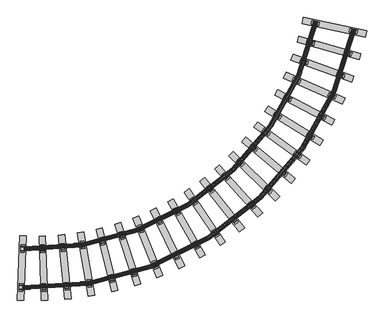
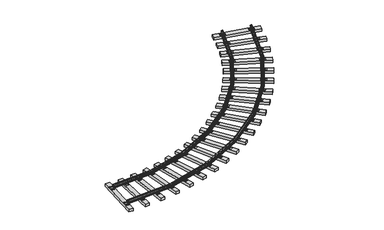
"""IFC4 building model written with IfcOpenShell, lengths in millimetres: railing geometry, Koleje."""

from ifc_helpers import new_model, si_unit, point, frame, origin, place, context, project, spatial, polyline, circle_curve, ellipse_curve, trimmed, outline, extrude, source, transform, mapped, element, save
from ifc_brep_helpers import plane_surface, cylinder_surface, revolved_surface, advanced_brep


def railing_4d6f0e60(model_context):
    return source(origin(), model_context, "Body", "SolidModel", [
        advanced_brep(
        [(56686.8886214, 35457.4425198, 147.0), (43873.8712563, 25446.8162203, 147.0), (43874.8808343, 25473.7973387, 161.9663444), (56660.4647185, 35462.9902539, 161.9663444), (56686.8886214, 35457.4425198, 65.0), (43873.8712563, 25446.8162203, 65.0), (56672.5486963, 35460.4532064, 45.3516536), (43874.4191418, 25461.4585394, 45.3516536), (56655.3324678, 35464.0677769, 39.9733683), (43875.0769222, 25479.037816, 39.9733683), (56632.9311281, 35468.7709684, 37.0), (43875.9328101, 25501.9115452, 37.0), (56623.2755218, 35470.798176, 37.0), (43876.3017219, 25511.7707646, 37.0), (56623.2755218, 35470.798176, 15.0), (43876.3017219, 25511.7707646, 15.0), (56770.0749825, 35439.9774309, 15.0), (43870.6929553, 25361.8756622, 15.0), (56770.0749825, 35439.9774309, 37.0), (43870.6929553, 25361.8756622, 37.0), (56760.4193762, 35442.0046385, 37.0), (43871.061867, 25371.7348816, 37.0), (56738.0180365, 35446.70783, 40.3498453), (43871.9177549, 25394.6086108, 40.3498453), (56720.801808, 35450.3224005, 45.7281306), (43872.5755353, 25412.1878875, 45.7281306), (56706.4618829, 35453.3330871, 65.0), (43873.1234208, 25426.8302066, 65.0), (56706.4618829, 35453.3330871, 147.0), (43873.1234208, 25426.8302066, 147.0), (56732.8857858, 35447.785353, 161.9663444), (43872.1138428, 25399.8490882, 161.9663444), (56732.8857858, 35447.785353, 176.5), (43872.1138428, 25399.8490882, 176.5), (56714.780519, 35451.5865782, 195.0), (43872.8055907, 25418.3361508, 195.0), (56678.5699853, 35459.1890287, 195.0), (43874.1890864, 25455.3102761, 195.0), (56660.4647185, 35462.9902539, 176.5), (43874.8808343, 25473.7973387, 176.5)],
        [
            (0, 1, circle_curve(frame((44345.402386, 38048.5542261, 147.0), z_axis=(0.0, 0.0, -1.0), x_axis=(-0.03739177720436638, -0.9993006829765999, 0.0)), 12610.5567829)),
            (1, 2),
            (2, 3, circle_curve(frame((44345.402386, 38048.5542261, 161.9663444), z_axis=(0.0, 0.0, 1.0), x_axis=(-0.03739177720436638, -0.9993006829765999, 0.0)), 12583.5567829)),
            (3, 0),
            (4, 5, circle_curve(frame((44345.402386, 38048.5542261, 65.0), z_axis=(0.0, 0.0, -1.0), x_axis=(-0.03739177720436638, -0.9993006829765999, 0.0)), 12610.5567829)),
            (5, 1),
            (0, 4),
            (6, 7, circle_curve(frame((44345.402386, 38048.5542261, 45.3516536), z_axis=(0.0, 0.0, -1.0), x_axis=(-0.03739177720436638, -0.9993006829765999, 0.0)), 12595.904217)),
            (7, 5, circle_curve(frame((43874.6377878, 25467.3018843, 65.0), z_axis=(-0.9993006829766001, 0.03739177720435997, 0.0), x_axis=(-0.03739177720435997, -0.9993006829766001, 0.0)), 20.5)),
            (4, 6, circle_curve(frame((56666.8260285, 35461.6546883, 65.0), z_axis=(0.20547163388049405, 0.9786630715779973, 0.0), x_axis=(0.9786630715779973, -0.20547163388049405, 0.0)), 20.5)),
            (8, 9, circle_curve(frame((44345.402386, 38048.5542261, 39.9733683), z_axis=(0.0, 0.0, -1.0), x_axis=(-0.03739177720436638, -0.9993006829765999, 0.0)), 12578.3126382)),
            (9, 7),
            (6, 8),
            (10, 11, circle_curve(frame((44345.402386, 38048.5542261, 37.0), z_axis=(0.0, 0.0, -1.0), x_axis=(-0.03739177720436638, -0.9993006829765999, 0.0)), 12555.4229019)),
            (11, 9, circle_curve(frame((43875.9328101, 25501.9115452, 126.5921559), z_axis=(-0.9993006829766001, 0.03739177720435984, 0.0), x_axis=(-0.03739177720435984, -0.9993006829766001, 0.0)), 89.5921559)),
            (8, 10, circle_curve(frame((56632.9311281, 35468.7709684, 126.5921559), z_axis=(0.20547163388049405, 0.9786630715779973, 0.0), x_axis=(0.9786630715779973, -0.20547163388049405, 0.0)), 89.5921559)),
            (12, 13, circle_curve(frame((44345.402386, 38048.5542261, 37.0), z_axis=(0.0, 0.0, -1.0), x_axis=(-0.03739177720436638, -0.9993006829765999, 0.0)), 12545.5567829)),
            (13, 11),
            (10, 12),
            (14, 15, circle_curve(frame((44345.402386, 38048.5542261, 15.0), z_axis=(0.0, 0.0, -1.0), x_axis=(-0.03739177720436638, -0.9993006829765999, 0.0)), 12545.5567829)),
            (15, 13),
            (12, 14),
            (16, 17, circle_curve(frame((44345.402386, 38048.5542261, 15.0), z_axis=(0.0, 0.0, -1.0), x_axis=(-0.03739177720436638, -0.9993006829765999, 0.0)), 12695.5567829)),
            (17, 15),
            (14, 16),
            (18, 19, circle_curve(frame((44345.402386, 38048.5542261, 37.0), z_axis=(0.0, 0.0, -1.0), x_axis=(-0.03739177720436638, -0.9993006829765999, 0.0)), 12695.5567829)),
            (19, 17),
            (16, 18),
            (20, 21, circle_curve(frame((44345.402386, 38048.5542261, 37.0), z_axis=(0.0, 0.0, -1.0), x_axis=(-0.03739177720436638, -0.9993006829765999, 0.0)), 12685.6906639)),
            (21, 19),
            (18, 20),
            (22, 23, circle_curve(frame((44345.402386, 38048.5542261, 40.3498453), z_axis=(0.0, 0.0, -1.0), x_axis=(-0.03739177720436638, -0.9993006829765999, 0.0)), 12662.8009275)),
            (23, 21, circle_curve(frame((43871.061867, 25371.7348816, 116.8785391), z_axis=(-0.9993006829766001, 0.037391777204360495, 0.0), x_axis=(-0.037391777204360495, -0.9993006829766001, 0.0)), 79.8785391)),
            (20, 22, circle_curve(frame((56760.4193762, 35442.0046385, 116.8785391), z_axis=(0.20547163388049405, 0.9786630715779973, 0.0), x_axis=(0.9786630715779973, -0.20547163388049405, 0.0)), 79.8785391)),
            (24, 25, circle_curve(frame((44345.402386, 38048.5542261, 45.7281306), z_axis=(0.0, 0.0, -1.0), x_axis=(-0.03739177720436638, -0.9993006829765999, 0.0)), 12645.2093488)),
            (25, 23),
            (22, 24),
            (26, 27, circle_curve(frame((44345.402386, 38048.5542261, 65.0), z_axis=(0.0, 0.0, -1.0), x_axis=(-0.03739177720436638, -0.9993006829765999, 0.0)), 12630.5567829)),
            (27, 25, circle_curve(frame((43872.3755853, 25406.8441929, 65.0), z_axis=(-0.9993006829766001, 0.03739177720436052, 0.0), x_axis=(-0.03739177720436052, -0.9993006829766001, 0.0)), 20.0)),
            (24, 26, circle_curve(frame((56726.0351443, 35449.2236544, 65.0), z_axis=(0.20547163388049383, 0.9786630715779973, 0.0), x_axis=(0.9786630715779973, -0.20547163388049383, 0.0)), 20.0)),
            (28, 29, circle_curve(frame((44345.402386, 38048.5542261, 147.0), z_axis=(0.0, 0.0, -1.0), x_axis=(-0.03739177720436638, -0.9993006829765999, 0.0)), 12630.5567829)),
            (29, 27),
            (26, 28),
            (30, 31, circle_curve(frame((44345.402386, 38048.5542261, 161.9663444), z_axis=(0.0, 0.0, -1.0), x_axis=(-0.03739177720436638, -0.9993006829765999, 0.0)), 12657.5567829)),
            (31, 29),
            (28, 30),
            (32, 33, circle_curve(frame((44345.402386, 38048.5542261, 176.5), z_axis=(0.0, 0.0, -1.0), x_axis=(-0.03739177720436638, -0.9993006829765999, 0.0)), 12657.5567829)),
            (33, 31),
            (30, 32),
            (34, 35, circle_curve(frame((44345.402386, 38048.5542261, 195.0), z_axis=(0.0, 0.0, -1.0), x_axis=(-0.03739177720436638, -0.9993006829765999, 0.0)), 12639.0567829)),
            (35, 33, circle_curve(frame((43872.8055907, 25418.3361508, 176.5), z_axis=(0.9993006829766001, -0.03739177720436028, 0.0), x_axis=(-0.03739177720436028, -0.9993006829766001, 0.0)), 18.5)),
            (32, 34, circle_curve(frame((56714.780519, 35451.5865782, 176.5), z_axis=(-0.20547163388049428, -0.9786630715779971, 0.0), x_axis=(0.9786630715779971, -0.20547163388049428, 0.0)), 18.5)),
            (36, 37, circle_curve(frame((44345.402386, 38048.5542261, 195.0), z_axis=(0.0, 0.0, -1.0), x_axis=(-0.03739177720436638, -0.9993006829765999, 0.0)), 12602.0567829)),
            (37, 35),
            (34, 36),
            (38, 39, circle_curve(frame((44345.402386, 38048.5542261, 176.5), z_axis=(0.0, 0.0, -1.0), x_axis=(-0.03739177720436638, -0.9993006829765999, 0.0)), 12583.5567829)),
            (39, 37, circle_curve(frame((43874.1890864, 25455.3102761, 176.5), z_axis=(0.9993006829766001, -0.03739177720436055, 0.0), x_axis=(-0.03739177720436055, -0.9993006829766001, 0.0)), 18.5)),
            (36, 38, circle_curve(frame((56678.5699853, 35459.1890287, 176.5), z_axis=(-0.20547163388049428, -0.9786630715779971, 0.0), x_axis=(0.9786630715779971, -0.20547163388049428, 0.0)), 18.5)),
            (2, 39),
            (38, 3),
        ],
        [
            revolved_surface(polyline([(43874.8808343, 25473.7973387, 161.9663444), (43873.8712563, 25446.8162203, 147.0)]), (44345.402386, 38048.5542261, 15.0), (0.0, 0.0, 1.0)),
            revolved_surface(polyline([(43873.871256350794, 25446.81622023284, 147.0), (43873.871256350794, 25446.81622023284, 65.0)]), (44345.402386, 38048.5542261, 15.0), (0.0, 0.0, 1.0)),
            revolved_surface(trimmed(ellipse_curve(frame((43874.6377878, 25467.3018843, 65.0), z_axis=(0.9993006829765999, -0.03739177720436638, 0.0), x_axis=(-0.03739177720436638, -0.9993006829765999, 0.0)), 20.5, 20.5), [point((43873.8712563, 25446.8162203, 65.0))], [point((43874.4191418, 25461.4585394, 45.3516536))], True, "CARTESIAN"), (44345.402386, 38048.5542261, 15.0), (0.0, 0.0, 1.0)),
            revolved_surface(polyline([(43874.4191418, 25461.4585394, 45.3516536), (43875.0769222, 25479.037816, 39.9733683)]), (44345.402386, 38048.5542261, 15.0), (0.0, 0.0, 1.0)),
            revolved_surface(trimmed(ellipse_curve(frame((43875.9328101, 25501.9115452, 126.5921559), z_axis=(0.9993006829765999, -0.03739177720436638, 0.0), x_axis=(-0.03739177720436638, -0.9993006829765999, 0.0)), 89.5921559, 89.5921559), [point((43875.0769222, 25479.037816, 39.9733683))], [point((43875.9328101, 25501.9115452, 37.0))], True, "CARTESIAN"), (44345.402386, 38048.5542261, 15.0), (0.0, 0.0, 1.0)),
            plane_surface(frame((44345.402386, 38048.5542261, 37.0), z_axis=(0.0, 0.0, 1.0), x_axis=(-0.03739177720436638, -0.9993006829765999, 0.0))),
            revolved_surface(polyline([(43876.30172186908, 25511.770764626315, 37.0), (43876.30172186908, 25511.770764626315, 15.0)]), (44345.402386, 38048.5542261, 15.0), (0.0, 0.0, 1.0)),
            plane_surface(frame((44345.402386, 38048.5542261, 15.0), z_axis=(0.0, 0.0, -1.0), x_axis=(-0.03739177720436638, -0.9993006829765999, 0.0))),
            cylinder_surface(frame((44345.402386, 38048.5542261, 15.0), z_axis=(0.0, 0.0, 1.0), x_axis=(-0.03739177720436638, -0.9993006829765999, 0.0)), 12695.5567829),
            revolved_surface(trimmed(ellipse_curve(frame((43871.061867, 25371.7348816, 116.8785391), z_axis=(0.9993006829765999, -0.03739177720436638, 0.0), x_axis=(-0.03739177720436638, -0.9993006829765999, 0.0)), 79.8785391, 79.8785391), [point((43871.061867, 25371.7348816, 37.0))], [point((43871.9177549, 25394.6086108, 40.3498453))], True, "CARTESIAN"), (44345.402386, 38048.5542261, 15.0), (0.0, 0.0, 1.0)),
            revolved_surface(polyline([(43871.9177549, 25394.6086108, 40.3498453), (43872.5755353, 25412.1878875, 45.7281306)]), (44345.402386, 38048.5542261, 15.0), (0.0, 0.0, 1.0)),
            revolved_surface(trimmed(ellipse_curve(frame((43872.3755853, 25406.8441929, 65.0), z_axis=(0.9993006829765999, -0.03739177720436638, 0.0), x_axis=(-0.03739177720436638, -0.9993006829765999, 0.0)), 20.0, 20.0), [point((43872.5755353, 25412.1878875, 45.7281306))], [point((43873.1234208, 25426.8302066, 65.0))], True, "CARTESIAN"), (44345.402386, 38048.5542261, 15.0), (0.0, 0.0, 1.0)),
            cylinder_surface(frame((44345.402386, 38048.5542261, 15.0), z_axis=(0.0, 0.0, 1.0), x_axis=(-0.03739177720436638, -0.9993006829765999, 0.0)), 12630.5567829),
            revolved_surface(polyline([(43873.1234208, 25426.8302066, 147.0), (43872.1138428, 25399.8490882, 161.9663444)]), (44345.402386, 38048.5542261, 15.0), (0.0, 0.0, 1.0)),
            cylinder_surface(frame((44345.402386, 38048.5542261, 15.0), z_axis=(0.0, 0.0, 1.0), x_axis=(-0.03739177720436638, -0.9993006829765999, 0.0)), 12657.5567829),
            revolved_surface(trimmed(ellipse_curve(frame((43872.8055907, 25418.3361508, 176.5), z_axis=(-0.9993006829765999, 0.03739177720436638, 0.0), x_axis=(-0.03739177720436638, -0.9993006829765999, 0.0)), 18.5, 18.5), [point((43872.1138428, 25399.8490882, 176.5))], [point((43872.8055907, 25418.3361508, 195.0))], True, "CARTESIAN"), (44345.402386, 38048.5542261, 15.0), (0.0, 0.0, 1.0)),
            plane_surface(frame((44345.402386, 38048.5542261, 195.0), z_axis=(0.0, 0.0, 1.0), x_axis=(-0.03739177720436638, -0.9993006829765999, 0.0))),
            revolved_surface(trimmed(ellipse_curve(frame((43874.1890864, 25455.3102761, 176.5), z_axis=(-0.9993006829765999, 0.03739177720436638, 0.0), x_axis=(-0.03739177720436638, -0.9993006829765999, 0.0)), 18.5, 18.5), [point((43874.1890864, 25455.3102761, 195.0))], [point((43874.8808343, 25473.7973387, 176.5))], True, "CARTESIAN"), (44345.402386, 38048.5542261, 15.0), (0.0, 0.0, 1.0)),
            revolved_surface(polyline([(43874.88083433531, 25473.797338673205, 176.5), (43874.88083433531, 25473.797338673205, 161.9663444)]), (44345.402386, 38048.5542261, 15.0), (0.0, 0.0, 1.0)),
            plane_surface(frame((43873.4973386, 25436.8232134, 15.0), z_axis=(-0.9993006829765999, 0.03739177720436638, 0.0), x_axis=(0.03739177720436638, 0.9993006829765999, 0.0))),
            plane_surface(frame((56696.6752522, 35455.3878034, 15.0), z_axis=(0.20547163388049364, 0.9786630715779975, 0.0), x_axis=(0.9786630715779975, -0.20547163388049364, 0.0))),
        ],
        [
            (0, [[1, 2, 3, 4]]),
            (1, [[5, 6, -1, 7]]),
            (2, [[8, 9, -5, 10]]),
            (3, [[11, 12, -8, 13]]),
            (4, [[14, 15, -11, 16]]),
            (5, [[17, 18, -14, 19]]),
            (6, [[20, 21, -17, 22]]),
            (7, [[23, 24, -20, 25]]),
            (8, [[26, 27, -23, 28]]),
            (5, [[29, 30, -26, 31]]),
            (9, [[32, 33, -29, 34]]),
            (10, [[35, 36, -32, 37]]),
            (11, [[38, 39, -35, 40]]),
            (12, [[41, 42, -38, 43]]),
            (13, [[44, 45, -41, 46]]),
            (14, [[47, 48, -44, 49]]),
            (15, [[50, 51, -47, 52]]),
            (16, [[53, 54, -50, 55]]),
            (17, [[56, 57, -53, 58]]),
            (18, [[-3, 59, -56, 60]]),
            (19, [[-2, -6, -9, -12, -15, -18, -21, -24, -27, -30, -33, -36, -39, -42, -45, -48, -51, -54, -57, -59]]),
            (20, [[-60, -58, -55, -52, -49, -46, -43, -40, -37, -34, -31, -28, -25, -22, -19, -16, -13, -10, -7, -4]]),
        ],
    ),
        advanced_brep(
        [(55210.0860464, 35767.4992153, 147.0), (43930.2954481, 26954.7609509, 147.0), (43931.3050261, 26981.7420693, 161.9663444), (55183.6621435, 35773.0469494, 161.9663444), (55210.0860464, 35767.4992153, 65.0), (43930.2954481, 26954.7609509, 65.0), (55195.7461213, 35770.509902, 45.3516536), (43930.8433336, 26969.40327, 45.3516536), (55178.5298928, 35774.1244724, 39.9733683), (43931.501114, 26986.9825466, 39.9733683), (55156.1285531, 35778.8276639, 37.0), (43932.3570019, 27009.8562758, 37.0), (55146.4729468, 35780.8548715, 37.0), (43932.7259137, 27019.7154953, 37.0), (55146.4729468, 35780.8548715, 15.0), (43932.7259137, 27019.7154953, 15.0), (55293.2724075, 35750.0341264, 15.0), (43927.1171471, 26869.8203928, 15.0), (55293.2724075, 35750.0341264, 37.0), (43927.1171471, 26869.8203928, 37.0), (55283.6168012, 35752.061334, 37.0), (43927.4860588, 26879.6796122, 37.0), (55261.2154615, 35756.7645256, 40.3498453), (43928.3419467, 26902.5533414, 40.3498453), (55243.999233, 35760.379096, 45.7281306), (43928.9997271, 26920.1326181, 45.7281306), (55229.6593079, 35763.3897826, 65.0), (43929.5476126, 26934.7749372, 65.0), (55229.6593079, 35763.3897826, 147.0), (43929.5476126, 26934.7749372, 147.0), (55256.0832108, 35757.8420485, 161.9663444), (43928.5380346, 26907.7938188, 161.9663444), (55256.0832108, 35757.8420485, 176.5), (43928.5380346, 26907.7938188, 176.5), (55237.977944, 35761.6432737, 195.0), (43929.2297825, 26926.2808814, 195.0), (55201.7674103, 35769.2457242, 195.0), (43930.6132782, 26963.2550067, 195.0), (55183.6621435, 35773.0469494, 176.5), (43931.3050261, 26981.7420693, 176.5)],
        [
            (0, 1, circle_curve(frame((44345.402386, 38048.5542261, 147.0), z_axis=(0.0, 0.0, -1.0), x_axis=(-0.03739177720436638, -0.9993006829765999, 0.0)), 11101.5567829)),
            (1, 2),
            (2, 3, circle_curve(frame((44345.402386, 38048.5542261, 161.9663444), z_axis=(0.0, 0.0, 1.0), x_axis=(-0.03739177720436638, -0.9993006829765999, 0.0)), 11074.5567829)),
            (3, 0),
            (4, 5, circle_curve(frame((44345.402386, 38048.5542261, 65.0), z_axis=(0.0, 0.0, -1.0), x_axis=(-0.03739177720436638, -0.9993006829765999, 0.0)), 11101.5567829)),
            (5, 1),
            (0, 4),
            (6, 7, circle_curve(frame((44345.402386, 38048.5542261, 45.3516536), z_axis=(0.0, 0.0, -1.0), x_axis=(-0.03739177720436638, -0.9993006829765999, 0.0)), 11086.904217)),
            (7, 5, circle_curve(frame((43931.0619796, 26975.2466149, 65.0), z_axis=(-0.9993006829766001, 0.03739177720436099, 0.0), x_axis=(-0.03739177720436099, -0.9993006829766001, 0.0)), 20.5)),
            (4, 6, circle_curve(frame((55190.0234535, 35771.7113838, 65.0), z_axis=(0.20547163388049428, 0.9786630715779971, 0.0), x_axis=(0.9786630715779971, -0.20547163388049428, 0.0)), 20.5)),
            (8, 9, circle_curve(frame((44345.402386, 38048.5542261, 39.9733683), z_axis=(0.0, 0.0, -1.0), x_axis=(-0.03739177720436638, -0.9993006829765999, 0.0)), 11069.3126382)),
            (9, 7),
            (6, 8),
            (10, 11, circle_curve(frame((44345.402386, 38048.5542261, 37.0), z_axis=(0.0, 0.0, -1.0), x_axis=(-0.03739177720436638, -0.9993006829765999, 0.0)), 11046.4229019)),
            (11, 9, circle_curve(frame((43932.3570019, 27009.8562758, 126.5921559), z_axis=(-0.9993006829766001, 0.037391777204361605, 0.0), x_axis=(-0.037391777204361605, -0.9993006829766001, 0.0)), 89.5921559)),
            (8, 10, circle_curve(frame((55156.1285531, 35778.8276639, 126.5921559), z_axis=(0.20547163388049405, 0.9786630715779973, 0.0), x_axis=(0.9786630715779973, -0.20547163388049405, 0.0)), 89.5921559)),
            (12, 13, circle_curve(frame((44345.402386, 38048.5542261, 37.0), z_axis=(0.0, 0.0, -1.0), x_axis=(-0.03739177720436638, -0.9993006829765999, 0.0)), 11036.5567829)),
            (13, 11),
            (10, 12),
            (14, 15, circle_curve(frame((44345.402386, 38048.5542261, 15.0), z_axis=(0.0, 0.0, -1.0), x_axis=(-0.03739177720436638, -0.9993006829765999, 0.0)), 11036.5567829)),
            (15, 13),
            (12, 14),
            (16, 17, circle_curve(frame((44345.402386, 38048.5542261, 15.0), z_axis=(0.0, 0.0, -1.0), x_axis=(-0.03739177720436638, -0.9993006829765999, 0.0)), 11186.5567829)),
            (17, 15),
            (14, 16),
            (18, 19, circle_curve(frame((44345.402386, 38048.5542261, 37.0), z_axis=(0.0, 0.0, -1.0), x_axis=(-0.03739177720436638, -0.9993006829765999, 0.0)), 11186.5567829)),
            (19, 17),
            (16, 18),
            (20, 21, circle_curve(frame((44345.402386, 38048.5542261, 37.0), z_axis=(0.0, 0.0, -1.0), x_axis=(-0.03739177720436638, -0.9993006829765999, 0.0)), 11176.6906639)),
            (21, 19),
            (18, 20),
            (22, 23, circle_curve(frame((44345.402386, 38048.5542261, 40.3498453), z_axis=(0.0, 0.0, -1.0), x_axis=(-0.03739177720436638, -0.9993006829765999, 0.0)), 11153.8009275)),
            (23, 21, circle_curve(frame((43927.4860588, 26879.6796122, 116.8785391), z_axis=(-0.9993006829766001, 0.0373917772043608, 0.0), x_axis=(-0.0373917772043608, -0.9993006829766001, 0.0)), 79.8785391)),
            (20, 22, circle_curve(frame((55283.6168012, 35752.061334, 116.8785391), z_axis=(0.2054716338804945, 0.9786630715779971, 0.0), x_axis=(0.9786630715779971, -0.2054716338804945, 0.0)), 79.8785391)),
            (24, 25, circle_curve(frame((44345.402386, 38048.5542261, 45.7281306), z_axis=(0.0, 0.0, -1.0), x_axis=(-0.03739177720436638, -0.9993006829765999, 0.0)), 11136.2093488)),
            (25, 23),
            (22, 24),
            (26, 27, circle_curve(frame((44345.402386, 38048.5542261, 65.0), z_axis=(0.0, 0.0, -1.0), x_axis=(-0.03739177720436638, -0.9993006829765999, 0.0)), 11121.5567829)),
            (27, 25, circle_curve(frame((43928.7997771, 26914.7889235, 65.0), z_axis=(-0.9993006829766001, 0.037391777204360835, 0.0), x_axis=(-0.037391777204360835, -0.9993006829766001, 0.0)), 20.0)),
            (24, 26, circle_curve(frame((55249.2325693, 35759.28035, 65.0), z_axis=(0.20547163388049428, 0.9786630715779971, 0.0), x_axis=(0.9786630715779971, -0.20547163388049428, 0.0)), 20.0)),
            (28, 29, circle_curve(frame((44345.402386, 38048.5542261, 147.0), z_axis=(0.0, 0.0, -1.0), x_axis=(-0.03739177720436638, -0.9993006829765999, 0.0)), 11121.5567829)),
            (29, 27),
            (26, 28),
            (30, 31, circle_curve(frame((44345.402386, 38048.5542261, 161.9663444), z_axis=(0.0, 0.0, -1.0), x_axis=(-0.03739177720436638, -0.9993006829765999, 0.0)), 11148.5567829)),
            (31, 29),
            (28, 30),
            (32, 33, circle_curve(frame((44345.402386, 38048.5542261, 176.5), z_axis=(0.0, 0.0, -1.0), x_axis=(-0.03739177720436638, -0.9993006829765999, 0.0)), 11148.5567829)),
            (33, 31),
            (30, 32),
            (34, 35, circle_curve(frame((44345.402386, 38048.5542261, 195.0), z_axis=(0.0, 0.0, -1.0), x_axis=(-0.03739177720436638, -0.9993006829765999, 0.0)), 11130.0567829)),
            (35, 33, circle_curve(frame((43929.2297825, 26926.2808814, 176.5), z_axis=(0.9993006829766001, -0.03739177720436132, 0.0), x_axis=(-0.03739177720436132, -0.9993006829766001, 0.0)), 18.5)),
            (32, 34, circle_curve(frame((55237.977944, 35761.6432737, 176.5), z_axis=(-0.20547163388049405, -0.9786630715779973, 0.0), x_axis=(0.9786630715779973, -0.20547163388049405, 0.0)), 18.5)),
            (36, 37, circle_curve(frame((44345.402386, 38048.5542261, 195.0), z_axis=(0.0, 0.0, -1.0), x_axis=(-0.03739177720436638, -0.9993006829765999, 0.0)), 11093.0567829)),
            (37, 35),
            (34, 36),
            (38, 39, circle_curve(frame((44345.402386, 38048.5542261, 176.5), z_axis=(0.0, 0.0, -1.0), x_axis=(-0.03739177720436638, -0.9993006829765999, 0.0)), 11074.5567829)),
            (39, 37, circle_curve(frame((43930.6132782, 26963.2550067, 176.5), z_axis=(0.9993006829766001, -0.037391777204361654, 0.0), x_axis=(-0.037391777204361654, -0.9993006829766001, 0.0)), 18.5)),
            (36, 38, circle_curve(frame((55201.7674103, 35769.2457242, 176.5), z_axis=(-0.20547163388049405, -0.9786630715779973, 0.0), x_axis=(0.9786630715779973, -0.20547163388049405, 0.0)), 18.5)),
            (2, 39),
            (38, 3),
        ],
        [
            revolved_surface(polyline([(43931.3050261, 26981.7420693, 161.9663444), (43930.2954481, 26954.7609509, 147.0)]), (44345.402386, 38048.5542261, 15.0), (0.0, 0.0, 1.0)),
            revolved_surface(polyline([(43930.29544815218, 26954.760950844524, 147.0), (43930.29544815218, 26954.760950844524, 65.0)]), (44345.402386, 38048.5542261, 15.0), (0.0, 0.0, 1.0)),
            revolved_surface(trimmed(ellipse_curve(frame((43931.0619796, 26975.2466149, 65.0), z_axis=(0.9993006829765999, -0.03739177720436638, 0.0), x_axis=(-0.03739177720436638, -0.9993006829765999, 0.0)), 20.5, 20.5), [point((43930.2954481, 26954.7609509, 65.0))], [point((43930.8433336, 26969.40327, 45.3516536))], True, "CARTESIAN"), (44345.402386, 38048.5542261, 15.0), (0.0, 0.0, 1.0)),
            revolved_surface(polyline([(43930.8433336, 26969.40327, 45.3516536), (43931.501114, 26986.9825466, 39.9733683)]), (44345.402386, 38048.5542261, 15.0), (0.0, 0.0, 1.0)),
            revolved_surface(trimmed(ellipse_curve(frame((43932.3570019, 27009.8562758, 126.5921559), z_axis=(0.9993006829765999, -0.03739177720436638, 0.0), x_axis=(-0.03739177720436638, -0.9993006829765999, 0.0)), 89.5921559, 89.5921559), [point((43931.501114, 26986.9825466, 39.9733683))], [point((43932.3570019, 27009.8562758, 37.0))], True, "CARTESIAN"), (44345.402386, 38048.5542261, 15.0), (0.0, 0.0, 1.0)),
            plane_surface(frame((44345.402386, 38048.5542261, 37.0), z_axis=(0.0, 0.0, 1.0), x_axis=(-0.03739177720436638, -0.9993006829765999, 0.0))),
            revolved_surface(polyline([(43932.72591367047, 27019.715495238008, 37.0), (43932.72591367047, 27019.715495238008, 15.0)]), (44345.402386, 38048.5542261, 15.0), (0.0, 0.0, 1.0)),
            plane_surface(frame((44345.402386, 38048.5542261, 15.0), z_axis=(0.0, 0.0, -1.0), x_axis=(-0.03739177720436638, -0.9993006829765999, 0.0))),
            cylinder_surface(frame((44345.402386, 38048.5542261, 15.0), z_axis=(0.0, 0.0, 1.0), x_axis=(-0.03739177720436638, -0.9993006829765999, 0.0)), 11186.5567829),
            revolved_surface(trimmed(ellipse_curve(frame((43927.4860588, 26879.6796122, 116.8785391), z_axis=(0.9993006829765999, -0.03739177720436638, 0.0), x_axis=(-0.03739177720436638, -0.9993006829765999, 0.0)), 79.8785391, 79.8785391), [point((43927.4860588, 26879.6796122, 37.0))], [point((43928.3419467, 26902.5533414, 40.3498453))], True, "CARTESIAN"), (44345.402386, 38048.5542261, 15.0), (0.0, 0.0, 1.0)),
            revolved_surface(polyline([(43928.3419467, 26902.5533414, 40.3498453), (43928.9997271, 26920.1326181, 45.7281306)]), (44345.402386, 38048.5542261, 15.0), (0.0, 0.0, 1.0)),
            revolved_surface(trimmed(ellipse_curve(frame((43928.7997771, 26914.7889235, 65.0), z_axis=(0.9993006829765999, -0.03739177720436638, 0.0), x_axis=(-0.03739177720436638, -0.9993006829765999, 0.0)), 20.0, 20.0), [point((43928.9997271, 26920.1326181, 45.7281306))], [point((43929.5476126, 26934.7749372, 65.0))], True, "CARTESIAN"), (44345.402386, 38048.5542261, 15.0), (0.0, 0.0, 1.0)),
            cylinder_surface(frame((44345.402386, 38048.5542261, 15.0), z_axis=(0.0, 0.0, 1.0), x_axis=(-0.03739177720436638, -0.9993006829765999, 0.0)), 11121.5567829),
            revolved_surface(polyline([(43929.5476126, 26934.7749372, 147.0), (43928.5380346, 26907.7938188, 161.9663444)]), (44345.402386, 38048.5542261, 15.0), (0.0, 0.0, 1.0)),
            cylinder_surface(frame((44345.402386, 38048.5542261, 15.0), z_axis=(0.0, 0.0, 1.0), x_axis=(-0.03739177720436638, -0.9993006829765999, 0.0)), 11148.5567829),
            revolved_surface(trimmed(ellipse_curve(frame((43929.2297825, 26926.2808814, 176.5), z_axis=(-0.9993006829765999, 0.03739177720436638, 0.0), x_axis=(-0.03739177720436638, -0.9993006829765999, 0.0)), 18.5, 18.5), [point((43928.5380346, 26907.7938188, 176.5))], [point((43929.2297825, 26926.2808814, 195.0))], True, "CARTESIAN"), (44345.402386, 38048.5542261, 15.0), (0.0, 0.0, 1.0)),
            plane_surface(frame((44345.402386, 38048.5542261, 195.0), z_axis=(0.0, 0.0, 1.0), x_axis=(-0.03739177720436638, -0.9993006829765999, 0.0))),
            revolved_surface(trimmed(ellipse_curve(frame((43930.6132782, 26963.2550067, 176.5), z_axis=(-0.9993006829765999, 0.03739177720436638, 0.0), x_axis=(-0.03739177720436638, -0.9993006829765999, 0.0)), 18.5, 18.5), [point((43930.6132782, 26963.2550067, 195.0))], [point((43931.3050261, 26981.7420693, 176.5))], True, "CARTESIAN"), (44345.402386, 38048.5542261, 15.0), (0.0, 0.0, 1.0)),
            revolved_surface(polyline([(43931.3050261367, 26981.742069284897, 176.5), (43931.3050261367, 26981.742069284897, 161.9663444)]), (44345.402386, 38048.5542261, 15.0), (0.0, 0.0, 1.0)),
            plane_surface(frame((43929.9215304, 26944.767944, 15.0), z_axis=(-0.9993006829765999, 0.03739177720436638, 0.0), x_axis=(0.03739177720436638, 0.9993006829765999, 0.0))),
            plane_surface(frame((55219.8726771, 35765.444499, 15.0), z_axis=(0.20547163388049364, 0.9786630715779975, 0.0), x_axis=(0.9786630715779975, -0.20547163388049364, 0.0))),
        ],
        [
            (0, [[1, 2, 3, 4]]),
            (1, [[5, 6, -1, 7]]),
            (2, [[8, 9, -5, 10]]),
            (3, [[11, 12, -8, 13]]),
            (4, [[14, 15, -11, 16]]),
            (5, [[17, 18, -14, 19]]),
            (6, [[20, 21, -17, 22]]),
            (7, [[23, 24, -20, 25]]),
            (8, [[26, 27, -23, 28]]),
            (5, [[29, 30, -26, 31]]),
            (9, [[32, 33, -29, 34]]),
            (10, [[35, 36, -32, 37]]),
            (11, [[38, 39, -35, 40]]),
            (12, [[41, 42, -38, 43]]),
            (13, [[44, 45, -41, 46]]),
            (14, [[47, 48, -44, 49]]),
            (15, [[50, 51, -47, 52]]),
            (16, [[53, 54, -50, 55]]),
            (17, [[56, 57, -53, 58]]),
            (18, [[-3, 59, -56, 60]]),
            (19, [[-2, -6, -9, -12, -15, -18, -21, -24, -27, -30, -33, -36, -39, -42, -45, -48, -51, -54, -57, -59]]),
            (20, [[-60, -58, -55, -52, -49, -46, -43, -40, -37, -34, -31, -28, -25, -22, -19, -16, -13, -10, -7, -4]]),
        ],
    ),
        extrude(outline(polyline([(2609.0581012, 0.0), (2609.0581012, -299.9999999), (2601.5581012, -299.9999999), (2594.0581012, -240.0), (2579.0581012, -225.0), (2594.0581012, -225.0), (2594.0581012, -74.9999999), (2579.0581012, -74.9999999), (2594.0581012, -59.9999999), (2601.5581012, 0.0), (2609.0581012, 0.0)])), frame((54850.0120617, 34913.3807819, 2609.0581012), z_axis=(0.27347909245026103, 0.9618779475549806, 0.0), x_axis=(0.0, 0.0, -1.0)), (0.0, 0.0, 1.0), 150.0),
        extrude(outline(polyline([(2609.0581012, 0.0), (2609.0581012, -300.0), (2601.5581012, -300.0), (2594.0581012, -240.0), (2579.0581012, -225.0), (2594.0581012, -225.0), (2594.0581012, -75.0), (2579.0581012, -75.0), (2594.0581012, -60.0), (2601.5581012, 0.0), (2609.0581012, 0.0)])), frame((56301.4858845, 34500.7008314, 2609.0581012), z_axis=(0.27347909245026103, 0.9618779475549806, 0.0), x_axis=(0.0, 0.0, -1.0)), (0.0, 0.0, 1.0), 150.0),
        extrude(outline(polyline([(54504.0092762, 34959.773911), (54572.3790493, 35200.2433979), (56977.0739182, 34516.5456668), (56908.7041451, 34276.0761799), (54504.0092762, 34959.773911)])), frame((0.0, 0.0, -150.0), z_axis=(0.0, 0.0, 1.0), x_axis=(1.0, 0.0, 0.0)), (0.0, 0.0, 1.0), 150.0),
        extrude(outline(polyline([(2609.0581012, 0.0), (2609.0581012, -300.0), (2601.5581012, -300.0), (2594.0581012, -240.0000001), (2579.0581012, -225.0), (2594.0581012, -225.0), (2594.0581012, -75.0000001), (2579.0581012, -75.0000001), (2594.0581012, -60.0000001), (2601.5581012, 0.0), (2609.0581012, 0.0)])), frame((54604.7616727, 34185.694665, 2609.0581012), z_axis=(0.3401446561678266, 0.9403731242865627, 0.0), x_axis=(0.0, 0.0, -1.0)), (0.0, 0.0, 1.0), 150.0),
        extrude(outline(polyline([(2609.0581012, 0.0), (2609.0581012, -300.0), (2601.5581012, -300.0), (2594.0581012, -240.0), (2579.0581012, -225.0000001), (2594.0581012, -225.0000001), (2594.0581012, -75.0), (2579.0581012, -75.0), (2594.0581012, -60.0), (2601.5581012, 0.0), (2609.0581012, 0.0)])), frame((56023.7847173, 33672.4163789, 2609.0581012), z_axis=(0.3401446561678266, 0.9403731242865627, 0.0), x_axis=(0.0, 0.0, -1.0)), (0.0, 0.0, 1.0), 150.0),
        extrude(outline(polyline([(54262.8555255, 34256.1959875), (54347.8916895, 34491.2892686), (56698.8245002, 33640.9276282), (56613.7883362, 33405.8343471), (54262.8555255, 34256.1959875)])), frame((0.0, 0.0, -150.0), z_axis=(0.0, 0.0, 1.0), x_axis=(1.0, 0.0, 0.0)), (0.0, 0.0, 1.0), 150.0),
        extrude(outline(polyline([(2609.0581012, 0.0), (2609.0581012, -300.0), (2601.5581012, -300.0), (2594.0581012, -239.9999999), (2579.0581012, -224.9999999), (2594.0581012, -224.9999999), (2594.0581012, -75.0), (2579.0581012, -75.0), (2594.0581012, -60.0), (2601.5581012, 0.0), (2609.0581012, 0.0)])), frame((54309.1711233, 33476.9626528, 2609.0581012), z_axis=(0.40514121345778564, 0.9142541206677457, 0.0), x_axis=(0.0, 0.0, -1.0)), (0.0, 0.0, 1.0), 150.0),
        extrude(outline(polyline([(2609.0581012, 0.0), (2609.0581012, -300.0), (2601.5581012, -300.0), (2594.0581012, -239.9999999), (2579.0581012, -224.9999999), (2594.0581012, -224.9999999), (2594.0581012, -75.0), (2579.0581012, -75.0), (2594.0581012, -60.0), (2601.5581012, 0.0), (2609.0581012, 0.0)])), frame((55688.7805914, 32865.6045617, 2609.0581012), z_axis=(0.40514121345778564, 0.9142541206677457, 0.0), x_axis=(0.0, 0.0, -1.0)), (0.0, 0.0, 1.0), 150.0),
        extrude(outline(polyline([(53973.0392639, 33571.226236), (54074.3245673, 33799.7897662), (56359.959869, 32786.9367326), (56258.6745656, 32558.3732024), (53973.0392639, 33571.226236)])), frame((0.0, 0.0, -150.0), z_axis=(0.0, 0.0, 1.0), x_axis=(1.0, 0.0, 0.0)), (0.0, 0.0, 1.0), 150.0),
        extrude(outline(polyline([(2609.0581012, 0.0), (2609.0581012, -300.0), (2601.5581012, -300.0), (2594.0581012, -240.0), (2579.0581012, -225.0), (2594.0581012, -225.0), (2594.0581012, -75.0), (2579.0581012, -75.0), (2594.0581012, -60.0), (2601.5581012, 0.0), (2609.0581012, 0.0)])), frame((53964.6908037, 32790.6623196, 2609.0581012), z_axis=(0.46814984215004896, 0.8836490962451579, 0.0), x_axis=(0.0, 0.0, -1.0)), (0.0, 0.0, 1.0), 150.0),
        extrude(outline(polyline([(2609.0581012, 0.0), (2609.0581012, -300.0), (2601.5581012, -300.0), (2594.0581012, -240.0), (2579.0581012, -225.0), (2594.0581012, -225.0), (2594.0581012, -75.0), (2579.0581012, -75.0), (2594.0581012, -60.0000001), (2601.5581012, 0.0), (2609.0581012, 0.0)])), frame((55298.1172899, 32084.2242078, 2609.0581012), z_axis=(0.46814984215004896, 0.8836490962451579, 0.0), x_axis=(0.0, 0.0, -1.0)), (0.0, 0.0, 1.0), 150.0),
        extrude(outline(polyline([(53635.9825488, 32908.2256352), (53753.0200093, 33129.1379093), (55962.1427499, 31958.7633039), (55845.1052894, 31737.8510298), (53635.9825488, 32908.2256352)])), frame((0.0, 0.0, -150.0), z_axis=(0.0, 0.0, 1.0), x_axis=(1.0, 0.0, 0.0)), (0.0, 0.0, 1.0), 150.0),
        extrude(outline(polyline([(2609.0581012, 0.0), (2609.0581012, -300.0), (2601.5581012, -300.0), (2594.0581012, -240.0), (2579.0581012, -225.0), (2594.0581012, -225.0), (2594.0581012, -75.0), (2579.0581012, -75.0), (2594.0581012, -60.0000001), (2601.5581012, 0.0), (2609.0581012, 0.0)])), frame((53573.0109943, 32130.1611727, 2609.0581012), z_axis=(0.5288613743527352, 0.8487082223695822, 0.0), x_axis=(0.0, 0.0, -1.0)), (0.0, 0.0, 1.0), 150.0),
        extrude(outline(polyline([(2609.0581012, 0.0), (2609.0581012, -300.0), (2601.5581012, -300.0), (2594.0581012, -239.9999999), (2579.0581012, -225.0), (2594.0581012, -225.0), (2594.0581012, -75.0), (2579.0581012, -75.0), (2594.0581012, -60.0), (2601.5581012, 0.0), (2609.0581012, 0.0)])), frame((54853.7117019, 31332.1093588, 2609.0581012), z_axis=(0.5288613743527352, 0.8487082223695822, 0.0), x_axis=(0.0, 0.0, -1.0)), (0.0, 0.0, 1.0), 150.0),
        extrude(outline(polyline([(53253.3392348, 32270.4473664), (53385.5545784, 32482.624422), (55507.3251343, 31160.4709861), (55375.1097907, 30948.2939305), (53253.3392348, 32270.4473664)])), frame((0.0, 0.0, -150.0), z_axis=(0.0, 0.0, 1.0), x_axis=(1.0, 0.0, 0.0)), (0.0, 0.0, 1.0), 150.0),
        extrude(outline(polyline([(2609.0581012, 0.0), (2609.0581012, -300.0), (2601.5581012, -300.0), (2594.0581012, -240.0), (2579.0581012, -225.0), (2594.0581012, -225.0), (2594.0581012, -75.0), (2579.0581012, -75.0), (2594.0581012, -60.0), (2601.5581012, 0.0), (2609.0581012, 0.0)])), frame((53136.0535721, 31498.7001294, 2609.0581012), z_axis=(0.5869779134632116, 0.8096029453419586, 0.0), x_axis=(0.0, 0.0, -1.0)), (0.0, 0.0, 1.0), 150.0),
        extrude(outline(polyline([(2609.0581012, 0.0), (2609.0581012, -300.0), (2601.5581012, -300.0), (2594.0581012, -240.0), (2579.0581012, -225.0), (2594.0581012, -225.0), (2594.0581012, -75.0), (2579.0581012, -75.0), (2594.0581012, -60.0), (2601.5581012, 0.0), (2609.0581012, 0.0)])), frame((54357.7444166, 30612.950458, 2609.0581012), z_axis=(0.5869779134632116, 0.8096029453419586, 0.0), x_axis=(0.0, 0.0, -1.0)), (0.0, 0.0, 1.0), 150.0),
        extrude(outline(polyline([(52826.9868588, 31661.0208513), (52973.7313371, 31863.4215876), (54997.7387005, 30395.9768039), (54850.9942221, 30193.5760676), (52826.9868588, 31661.0208513)])), frame((0.0, 0.0, -150.0), z_axis=(0.0, 0.0, 1.0), x_axis=(1.0, 0.0, 0.0)), (0.0, 0.0, 1.0), 150.0),
        extrude(outline(polyline([(2609.0581012, 0.0), (2609.0581012, -300.0), (2601.5581012, -300.0), (2594.0581012, -240.0), (2579.0581012, -225.0), (2594.0581012, -225.0), (2594.0581012, -75.0), (2579.0581012, -75.0), (2594.0581012, -60.0), (2601.5581012, 0.0), (2609.0581012, 0.0)])), frame((52655.9625798, 30899.3776142, 2609.0581012), z_axis=(0.642214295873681, 0.7665251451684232, 0.0), x_axis=(0.0, 0.0, -1.0)), (0.0, 0.0, 1.0), 150.0),
        extrude(outline(polyline([(2609.0581012, 0.0), (2609.0581012, -300.0), (2601.5581012, -300.0), (2594.0581012, -240.0), (2579.0581012, -225.0), (2594.0581012, -225.0), (2594.0581012, -75.0), (2579.0581012, -75.0), (2594.0581012, -60.0), (2601.5581012, 0.0), (2609.0581012, 0.0)])), frame((53812.6490239, 29930.2762418, 2609.0581012), z_axis=(0.642214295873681, 0.7665251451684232, 0.0), x_axis=(0.0, 0.0, -1.0)), (0.0, 0.0, 1.0), 150.0),
        extrude(outline(polyline([(52359.0174274, 31082.9363962), (52519.5710013, 31274.5676825), (54435.8838643, 29669.0319428), (54275.3302903, 29477.4006565), (52359.0174274, 31082.9363962)])), frame((0.0, 0.0, -150.0), z_axis=(0.0, 0.0, 1.0), x_axis=(1.0, 0.0, 0.0)), (0.0, 0.0, 1.0), 150.0),
        extrude(outline(polyline([(2609.0581012, 0.0), (2609.0581012, -300.0), (2601.5581012, -300.0), (2594.0581012, -240.0000001), (2579.0581012, -225.0), (2594.0581012, -225.0), (2594.0581012, -75.0), (2579.0581012, -75.0), (2594.0581012, -60.0), (2601.5581012, 0.0), (2609.0581012, 0.0)])), frame((52135.0937064, 30335.1343558, 2609.0581012), z_axis=(0.6942994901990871, 0.719686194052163, 0.0), x_axis=(0.0, 0.0, -1.0)), (0.0, 0.0, 1.0), 150.0),
        extrude(outline(polyline([(2609.0581012, 0.0), (2609.0581012, -300.0), (2601.5581012, -300.0), (2594.0581012, -240.0000001), (2579.0581012, -225.0), (2594.0581012, -225.0), (2594.0581012, -75.0000001), (2579.0581012, -75.0000001), (2594.0581012, -60.0000001), (2601.5581012, 0.0), (2609.0581012, 0.0)])), frame((53221.1001732, 29287.4364251, 2609.0581012), z_axis=(0.6942994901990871, 0.719686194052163, 0.0), x_axis=(0.0, 0.0, -1.0)), (0.0, 0.0, 1.0), 150.0),
        extrude(outline(polyline([(51851.7271518, 30539.0305199), (52025.3020244, 30718.9520684), (53824.5175095, 28983.2033429), (53650.942637, 28803.2817944), (51851.7271518, 30539.0305199)])), frame((0.0, 0.0, -150.0), z_axis=(0.0, 0.0, 1.0), x_axis=(1.0, 0.0, 0.0)), (0.0, 0.0, 1.0), 150.0),
        extrude(outline(polyline([(2609.0581012, 0.0), (2609.0581012, -300.0), (2601.5581012, -300.0), (2594.0581012, -240.0), (2579.0581012, -225.0), (2594.0581012, -225.0), (2594.0581012, -74.9999999), (2579.0581012, -74.9999999), (2594.0581012, -59.9999999), (2601.5581012, 0.0), (2609.0581012, 0.0)])), frame((51576.0027276, 29808.7389573, 2609.0581012), z_axis=(0.7429779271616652, 0.6693159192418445, 0.0), x_axis=(0.0, 0.0, -1.0)), (0.0, 0.0, 1.0), 150.0),
        extrude(outline(polyline([(2609.0581012, 0.0), (2609.0581012, -300.0000001), (2601.5581012, -300.0000001), (2594.0581012, -240.0), (2579.0581012, -225.0), (2594.0581012, -225.0), (2594.0581012, -75.0000001), (2579.0581012, -75.0000001), (2594.0581012, -60.0000001), (2601.5581012, 0.0), (2609.0581012, 0.0)])), frame((52586.0004497, 28687.5852653, 2609.0581012), z_axis=(0.7429779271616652, 0.6693159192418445, 0.0), x_axis=(0.0, 0.0, -1.0)), (0.0, 0.0, 1.0), 150.0),
        extrude(outline(polyline([(51307.6051811, 30031.9720352), (51493.3496629, 30199.301015), (53166.639461, 28341.8561971), (52980.8949792, 28174.5272173), (51307.6051811, 30031.9720352)])), frame((0.0, 0.0, -150.0), z_axis=(0.0, 0.0, 1.0), x_axis=(1.0, 0.0, 0.0)), (0.0, 0.0, 1.0), 150.0),
        extrude(outline(polyline([(2609.0581012, 0.0), (2609.0581012, -299.9999999), (2601.5581012, -299.9999999), (2594.0581012, -240.0), (2579.0581012, -224.9999999), (2594.0581012, -224.9999999), (2594.0581012, -75.0), (2579.0581012, -75.0), (2594.0581012, -60.0), (2601.5581012, 0.0), (2609.0581012, 0.0)])), frame((50981.4329658, 29322.7743121, 2609.0581012), z_axis=(0.788010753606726, 0.6156614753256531, 0.0), x_axis=(0.0, 0.0, -1.0)), (0.0, 0.0, 1.0), 150.0),
        extrude(outline(polyline([(2609.0581012, 0.0), (2609.0581012, -299.9999999), (2601.5581012, -299.9999999), (2594.0581012, -239.9999999), (2579.0581012, -224.9999999), (2594.0581012, -224.9999999), (2594.0581012, -75.0), (2579.0581012, -75.0), (2594.0581012, -60.0), (2601.5581012, 0.0), (2609.0581012, 0.0)])), frame((51910.4661321, 28133.6660849, 2609.0581012), z_axis=(0.788010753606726, 0.6156614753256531, 0.0), x_axis=(0.0, 0.0, -1.0)), (0.0, 0.0, 1.0), 150.0),
        extrude(outline(polyline([(50729.3213884, 29564.2489537), (50926.3240768, 29718.1643226), (52465.4777651, 27748.1374386), (52268.4750767, 27594.2220697), (50729.3213884, 29564.2489537)])), frame((0.0, 0.0, -150.0), z_axis=(0.0, 0.0, 1.0), x_axis=(1.0, 0.0, 0.0)), (0.0, 0.0, 1.0), 150.0),
        extrude(outline(polyline([(2609.0581012, 0.0), (2609.0581012, -300.0000001), (2601.5581012, -300.0000001), (2594.0581012, -240.0), (2579.0581012, -225.0), (2594.0581012, -225.0), (2594.0581012, -75.0000001), (2579.0581012, -75.0000001), (2594.0581012, -60.0), (2601.5581012, 0.0), (2609.0581012, 0.0)])), frame((50354.301829, 28879.6249295, 2609.0581012), z_axis=(0.829177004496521, 0.5589861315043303, 0.0), x_axis=(0.0, 0.0, -1.0)), (0.0, 0.0, 1.0), 150.0),
        extrude(outline(polyline([(2609.0581012, 0.0), (2609.0581012, -300.0), (2601.5581012, -300.0), (2594.0581012, -240.0), (2579.0581012, -225.0), (2594.0581012, -225.0), (2594.0581012, -74.9999999), (2579.0581012, -74.9999999), (2594.0581012, -60.0), (2601.5581012, 0.0), (2609.0581012, 0.0)])), frame((51197.8119015, 27628.3968297, 2609.0581012), z_axis=(0.829177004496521, 0.5589861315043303, 0.0), x_axis=(0.0, 0.0, -1.0)), (0.0, 0.0, 1.0), 150.0),
        extrude(outline(polyline([(50119.7132704, 29138.156278), (50327.0075215, 29277.9028108), (51724.4728503, 27204.9602996), (51517.1785991, 27065.2137667), (50119.7132704, 29138.156278)])), frame((0.0, 0.0, -150.0), z_axis=(0.0, 0.0, 1.0), x_axis=(1.0, 0.0, 0.0)), (0.0, 0.0, 1.0), 150.0),
        extrude(outline(polyline([(2609.0581012, 0.0), (2609.0581012, -300.0), (2601.5581012, -300.0), (2594.0581012, -240.0), (2579.0581012, -225.0), (2594.0581012, -225.0), (2594.0581012, -75.0), (2579.0581012, -75.0), (2594.0581012, -60.0), (2601.5581012, 0.0), (2609.0581012, 0.0)])), frame((49697.686496, 28481.4652347, 2609.0581012), z_axis=(0.8662746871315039, 0.49956797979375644, 0.0), x_axis=(0.0, 0.0, -1.0)), (0.0, 0.0, 1.0), 150.0),
        extrude(outline(polyline([(2609.0581012, 0.0), (2609.0581012, -300.0000001), (2601.5581012, -300.0000001), (2594.0581012, -240.0), (2579.0581012, -225.0), (2594.0581012, -225.0), (2594.0581012, -75.0000001), (2579.0581012, -75.0000001), (2594.0581012, -60.0000001), (2601.5581012, 0.0), (2609.0581012, 0.0)])), frame((50451.5345775, 27174.2567319, 2609.0581012), z_axis=(0.8662746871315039, 0.49956797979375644, 0.0), x_axis=(0.0, 0.0, -1.0)), (0.0, 0.0, 1.0), 150.0),
        extrude(outline(polyline([(49481.7720247, 28755.7847402), (49698.3406964, 28880.6767351), (50947.2606459, 26714.9900173), (50730.6919741, 26590.0980223), (49481.7720247, 28755.7847402)])), frame((0.0, 0.0, -150.0), z_axis=(0.0, 0.0, 1.0), x_axis=(1.0, 0.0, 0.0)), (0.0, 0.0, 1.0), 150.0),
        extrude(outline(polyline([(2609.0581012, 0.0), (2609.0581012, -299.9999999), (2601.5581012, -299.9999999), (2594.0581012, -240.0), (2579.0581012, -225.0), (2594.0581012, -225.0), (2594.0581012, -75.0), (2579.0581012, -75.0), (2594.0581012, -60.0), (2601.5581012, 0.0), (2609.0581012, 0.0)])), frame((49014.8088172, 28130.2488999, 2609.0581012), z_axis=(0.8991217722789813, 0.43769857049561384, 0.0), x_axis=(0.0, 0.0, -1.0)), (0.0, 0.0, 1.0), 150.0),
        extrude(outline(polyline([(2609.0581012, 0.0), (2609.0581012, -300.0), (2601.5581012, -300.0), (2594.0581012, -240.0), (2579.0581012, -225.0000001), (2594.0581012, -225.0000001), (2594.0581012, -75.0000001), (2579.0581012, -75.0000001), (2594.0581012, -60.0), (2601.5581012, 0.0), (2609.0581012, 0.0)])), frame((49675.2959601, 26773.4741456, 2609.0581012), z_axis=(0.8991217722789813, 0.43769857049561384, 0.0), x_axis=(0.0, 0.0, -1.0)), (0.0, 0.0, 1.0), 150.0),
        extrude(outline(polyline([(48818.6278725, 28419.0105437), (49043.4083156, 28528.4351864), (50137.6547418, 26280.6307557), (49912.8742988, 26171.206113), (48818.6278725, 28419.0105437)])), frame((0.0, 0.0, -150.0), z_axis=(0.0, 0.0, 1.0), x_axis=(1.0, 0.0, 0.0)), (0.0, 0.0, 1.0), 150.0),
        extrude(outline(polyline([(2609.0581012, 0.0), (2609.0581012, -300.0), (2601.5581012, -300.0), (2594.0581012, -240.0), (2579.0581012, -225.0), (2594.0581012, -225.0), (2594.0581012, -75.0), (2579.0581012, -75.0), (2594.0581012, -60.0), (2601.5581012, 0.0), (2609.0581012, 0.0)])), frame((48309.019506, 27827.6992575, 2609.0581012), z_axis=(0.9275570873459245, 0.3736814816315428, 0.0), x_axis=(0.0, 0.0, -1.0)), (0.0, 0.0, 1.0), 150.0),
        extrude(outline(polyline([(2609.0581012, 0.0), (2609.0581012, -300.0), (2601.5581012, -300.0), (2594.0581012, -240.0), (2579.0581012, -225.0000001), (2594.0581012, -225.0000001), (2594.0581012, -75.0000001), (2579.0581012, -75.0000001), (2594.0581012, -60.0000001), (2601.5581012, 0.0), (2609.0581012, 0.0)])), frame((48872.9048617, 26428.0156127, 2609.0581012), z_axis=(0.9275570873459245, 0.3736814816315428, 0.0), x_axis=(0.0, 0.0, -1.0)), (0.0, 0.0, 1.0), 150.0),
        extrude(outline(polyline([(48133.5346997, 28129.4861571), (48365.4239715, 28222.9065275), (49299.6276756, 25904.0138091), (49067.7384038, 25810.5934387), (48133.5346997, 28129.4861571)])), frame((0.0, 0.0, -150.0), z_axis=(0.0, 0.0, 1.0), x_axis=(1.0, 0.0, 0.0)), (0.0, 0.0, 1.0), 150.0),
        extrude(outline(polyline([(2609.0581012, 0.0), (2609.0581012, -299.9999999), (2601.5581012, -299.9999999), (2594.0581012, -240.0), (2579.0581012, -225.0), (2594.0581012, -225.0), (2594.0581012, -75.0), (2579.0581012, -75.0), (2594.0581012, -60.0), (2601.5581012, 0.0), (2609.0581012, 0.0)])), frame((47583.7816973, 27575.3008443, 2609.0581012), z_axis=(0.9514411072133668, 0.30783082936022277, 0.0), x_axis=(0.0, 0.0, -1.0)), (0.0, 0.0, 1.0), 150.0),
        extrude(outline(polyline([(2609.0581012, 0.0), (2609.0581012, -299.9999999), (2601.5581012, -299.9999999), (2594.0581012, -240.0), (2579.0581012, -225.0), (2594.0581012, -225.0), (2594.0581012, -75.0), (2579.0581012, -75.0), (2594.0581012, -60.0), (2601.5581012, 0.0), (2609.0581012, 0.0)])), frame((48048.2984188, 26139.5762135, 2609.0581012), z_axis=(0.9514411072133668, 0.30783082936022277, 0.0), x_axis=(0.0, 0.0, -1.0)), (0.0, 0.0, 1.0), 150.0),
        extrude(outline(polyline([(47429.8540904, 27888.6322054), (47667.7143672, 27965.5899127), (48437.2914406, 25586.9871447), (48199.4311638, 25510.0294374), (47429.8540904, 27888.6322054)])), frame((0.0, 0.0, -150.0), z_axis=(0.0, 0.0, 1.0), x_axis=(1.0, 0.0, 0.0)), (0.0, 0.0, 1.0), 150.0),
        extrude(outline(polyline([(2609.0581012, 0.0), (2609.0581012, -300.0), (2601.5581012, -300.0), (2594.0581012, -240.0000001), (2579.0581012, -225.0000001), (2594.0581012, -225.0000001), (2594.0581012, -75.0000001), (2579.0581012, -75.0000001), (2594.0581012, -60.0000001), (2601.5581012, 0.0), (2609.0581012, 0.0)])), frame((46842.6539554, 27374.2921176, 2609.0581012), z_axis=(0.9706566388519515, 0.2404697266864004, 0.0), x_axis=(0.0, 0.0, -1.0)), (0.0, 0.0, 1.0), 150.0),
        extrude(outline(polyline([(2609.0581012, 0.0), (2609.0581012, -299.9999999), (2601.5581012, -299.9999999), (2594.0581012, -240.0), (2579.0581012, -225.0), (2594.0581012, -225.0), (2594.0581012, -75.0), (2579.0581012, -75.0), (2594.0581012, -60.0), (2601.5581012, 0.0), (2609.0581012, 0.0)])), frame((47205.522773, 25909.5712495, 2609.0581012), z_axis=(0.9706566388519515, 0.2404697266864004, 0.0), x_axis=(0.0, 0.0, -1.0)), (0.0, 0.0, 1.0), 150.0),
        extrude(outline(polyline([(46711.0388329, 27697.6304999), (46953.7029926, 27757.7479316), (47554.8773094, 25331.1063345), (47312.2131496, 25270.9889028), (46711.0388329, 27697.6304999)])), frame((0.0, 0.0, -150.0), z_axis=(0.0, 0.0, 1.0), x_axis=(1.0, 0.0, 0.0)), (0.0, 0.0, 1.0), 150.0),
        extrude(outline(polyline([(2609.0581012, 0.0), (2609.0581012, -300.0), (2601.5581012, -300.0), (2594.0581012, -240.0), (2579.0581012, -225.0), (2594.0581012, -225.0), (2594.0581012, -75.0), (2579.0581012, -75.0), (2594.0581012, -60.0), (2601.5581012, 0.0), (2609.0581012, 0.0)])), frame((46089.2728124, 27225.6593777, 2609.0581012), z_axis=(0.9851093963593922, 0.1719286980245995, 0.0), x_axis=(0.0, 0.0, -1.0)), (0.0, 0.0, 1.0), 150.0),
        extrude(outline(polyline([(2609.0581012, 0.0), (2609.0581012, -300.0), (2601.5581012, -300.0), (2594.0581012, -240.0), (2579.0581012, -225.0), (2594.0581012, -225.0), (2594.0581012, -75.0), (2579.0581012, -75.0), (2594.0581012, -60.0), (2601.5581012, 0.0), (2609.0581012, 0.0)])), frame((46348.7132177, 25739.1292986, 2609.0581012), z_axis=(0.9851093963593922, 0.1719286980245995, 0.0), x_axis=(0.0, 0.0, -1.0)), (0.0, 0.0, 1.0), 150.0),
        extrude(outline(polyline([(45980.6159774, 27557.4182393), (46226.8933265, 27600.4004138), (46656.7150716, 25137.6269229), (46410.4377225, 25094.6447484), (45980.6159774, 27557.4182393)])), frame((0.0, 0.0, -150.0), z_axis=(0.0, 0.0, 1.0), x_axis=(1.0, 0.0, 0.0)), (0.0, 0.0, 1.0), 150.0),
        extrude(outline(polyline([(2609.0581012, 0.0), (2609.0581012, -299.9999999), (2601.5581012, -299.9999999), (2594.0581012, -239.9999999), (2579.0581012, -225.0), (2594.0581012, -225.0), (2594.0581012, -74.9999999), (2579.0581012, -74.9999999), (2594.0581012, -60.0), (2601.5581012, 0.0), (2609.0581012, 0.0)])), frame((45327.3349247, 27130.1319292, 2609.0581012), z_axis=(0.9947284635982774, 0.10254405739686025, 0.0), x_axis=(0.0, 0.0, -1.0)), (0.0, 0.0, 1.0), 150.0),
        extrude(outline(polyline([(2609.0581012, 0.0), (2609.0581012, -300.0), (2601.5581012, -300.0), (2594.0581012, -240.0), (2579.0581012, -225.0), (2594.0581012, -225.0), (2594.0581012, -75.0), (2579.0581012, -75.0), (2594.0581012, -60.0), (2601.5581012, 0.0), (2609.0581012, 0.0)])), frame((45482.0739074, 25629.0866777, 2609.0581012), z_axis=(0.9947284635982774, 0.10254405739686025, 0.0), x_axis=(0.0, 0.0, -1.0)), (0.0, 0.0, 1.0), 150.0),
        extrude(outline(polyline([(45242.1695297, 27468.6834106), (45490.8516456, 27494.3194249), (45747.2117891, 25007.4982659), (45498.5296732, 24981.8622516), (45242.1695297, 27468.6834106)])), frame((0.0, 0.0, -150.0), z_axis=(0.0, 0.0, 1.0), x_axis=(1.0, 0.0, 0.0)), (0.0, 0.0, 1.0), 150.0),
        extrude(outline(polyline([(2609.0581012, 0.0), (2609.0581012, -300.0000001), (2601.5581012, -300.0000001), (2594.0581012, -240.0), (2579.0581012, -225.0), (2594.0581012, -225.0), (2594.0581012, -75.0), (2579.0581012, -75.0), (2594.0581012, -60.0), (2601.5581012, 0.0), (2609.0581012, 0.0)])), frame((44560.5789349, 27088.1785019, 2609.0581012), z_axis=(0.9994666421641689, 0.03265625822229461, 0.0), x_axis=(0.0, 0.0, -1.0)), (0.0, 0.0, 1.0), 150.0),
        extrude(outline(polyline([(2609.0581012, 0.0), (2609.0581012, -300.0), (2601.5581012, -300.0), (2594.0581012, -240.0000001), (2579.0581012, -225.0), (2594.0581012, -225.0), (2594.0581012, -75.0), (2579.0581012, -75.0), (2594.0581012, -60.0000001), (2601.5581012, 0.0), (2609.0581012, 0.0)])), frame((44609.8572286, 25579.9833389, 2609.0581012), z_axis=(0.9994666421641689, 0.03265625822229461, 0.0), x_axis=(0.0, 0.0, -1.0)), (0.0, 0.0, 1.0), 150.0),
        extrude(outline(polyline([(44499.3228656, 27431.8614138), (44749.1895261, 27440.0254784), (44830.8301717, 24941.358873), (44580.9635111, 24933.1948084), (44499.3228656, 27431.8614138)])), frame((0.0, 0.0, -150.0), z_axis=(0.0, 0.0, 1.0), x_axis=(1.0, 0.0, 0.0)), (0.0, 0.0, 1.0), 150.0),
        extrude(outline(polyline([(2609.0581012, 0.0), (2609.0581012, -300.0), (2601.5581012, -300.0), (2594.0581012, -240.0), (2579.0581012, -225.0000001), (2594.0581012, -225.0000001), (2594.0581012, -75.0), (2579.0581012, -75.0), (2594.0581012, -60.0), (2601.5581012, 0.0), (2609.0581012, 0.0)])), frame((55043.7189065, 35656.4504263, 2609.0581012), z_axis=(0.2054716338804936, 0.9786630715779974, 0.0), x_axis=(0.0, 0.0, -1.0)), (0.0, 0.0, 1.0), 150.0),
        extrude(outline(polyline([(2609.0581012, 0.0), (2609.0581012, -299.9999999), (2601.5581012, -299.9999999), (2594.0581012, -239.9999999), (2579.0581012, -225.0), (2594.0581012, -225.0), (2594.0581012, -74.9999999), (2579.0581012, -74.9999999), (2594.0581012, -60.0), (2601.5581012, 0.0), (2609.0581012, 0.0)])), frame((56520.5214816, 35346.3937307, 2609.0581012), z_axis=(0.2054716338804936, 0.9786630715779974, 0.0), x_axis=(0.0, 0.0, -1.0)), (0.0, 0.0, 1.0), 150.0),
        extrude(outline(polyline([(54695.3172336, 35678.5077222), (54746.6851421, 35923.1734901), (57193.342821, 35409.4944054), (57141.9749126, 35164.8286375), (54695.3172336, 35678.5077222)])), frame((0.0, 0.0, -150.0), z_axis=(0.0, 0.0, 1.0), x_axis=(1.0, 0.0, 0.0)), (0.0, 0.0, 1.0), 150.0),
        extrude(outline(polyline([(-2609.0581012, 0.0), (-2601.5581012, 0.0), (-2594.0581012, -59.9999999), (-2579.0581012, -75.0), (-2594.0581012, -75.0), (-2594.0581012, -224.9999999), (-2579.0581012, -224.9999999), (-2594.0581012, -240.0), (-2601.5581012, -299.9999999), (-2609.0581012, -299.9999999), (-2609.0581012, 0.0)])), frame((43942.6622289, 27094.3961842, 2609.0581012), z_axis=(-0.9993006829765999, 0.03739177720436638, 0.0), x_axis=(0.0, 0.0, 1.0)), (0.0, 0.0, 1.0), 150.0),
        extrude(outline(polyline([(-2609.0581012, 0.0), (-2601.5581012, 0.0), (-2594.0581012, -59.9999999), (-2579.0581012, -75.0), (-2594.0581012, -75.0), (-2594.0581012, -224.9999999), (-2579.0581012, -224.9999999), (-2594.0581012, -240.0), (-2601.5581012, -300.0), (-2609.0581012, -300.0), (-2609.0581012, 0.0)])), frame((43886.2380371, 25586.4514536, 2609.0581012), z_axis=(-0.9993006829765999, 0.03739177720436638, 0.0), x_axis=(0.0, 0.0, 1.0)), (0.0, 0.0, 1.0), 150.0),
        extrude(outline(polyline([(43755.7209514, 27447.1329257), (44005.5461221, 27437.7849814), (43912.0666791, 24939.5332739), (43662.2415083, 24948.8812182), (43755.7209514, 27447.1329257)])), frame((0.0, 0.0, -150.0), z_axis=(0.0, 0.0, 1.0), x_axis=(1.0, 0.0, 0.0)), (0.0, 0.0, 1.0), 150.0),
    ])


if __name__ == "__main__":
    model = new_model("IFC4")
    model_context = context("Model", 3, world=origin())
    ifc_project = project(units=[si_unit("LENGTHUNIT", "METRE", prefix="MILLI")], contexts=[model_context])
    site = spatial("IfcSite", under=ifc_project)
    building = spatial("IfcBuilding", under=site)
    placement = place(None, origin())
    railing_shape = railing_4d6f0e60(model_context)
    element("IfcRailing", 1, ObjectType="Koleje", at=placement, inside=building, context=model_context, shape_type="MappedRepresentation", body=[
        mapped(railing_shape, transform((0.0, 0.0, 0.0), x_axis=(1.0, 0.0, 0.0), y_axis=(0.0, 1.0, 0.0), z_axis=(0.0, 0.0, 1.0))),
    ])
    save(model, "model.ifc")
